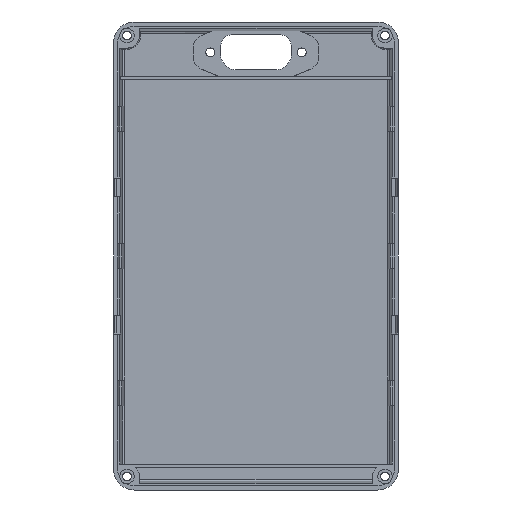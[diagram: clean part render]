
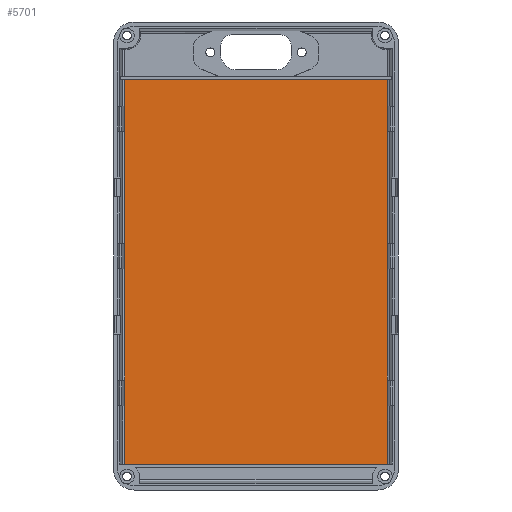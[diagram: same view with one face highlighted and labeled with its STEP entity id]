
A CAD part, top view. The second image highlights one B-rep face of the part: STEP entity #5701.
In plain terms, the highlighted planar face has unit normal (0, 0, 1).
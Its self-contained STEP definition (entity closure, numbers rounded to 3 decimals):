
#957=DIRECTION('',(0.,-1.,0.));
#958=VECTOR('',#957,185.);
#959=CARTESIAN_POINT('',(-63.216,85.,3.));
#960=LINE('',#959,#958);
#989=DIRECTION('',(1.,0.,0.));
#990=VECTOR('',#989,126.431);
#991=CARTESIAN_POINT('',(-63.216,85.,3.));
#992=LINE('',#991,#990);
#993=DIRECTION('',(1.,0.,0.));
#994=VECTOR('',#993,126.431);
#995=CARTESIAN_POINT('',(-63.216,-100.,3.));
#996=LINE('',#995,#994);
#1047=DIRECTION('',(0.,1.,0.));
#1048=VECTOR('',#1047,185.);
#1049=CARTESIAN_POINT('',(63.216,-100.,3.));
#1050=LINE('',#1049,#1048);
#3661=CARTESIAN_POINT('',(63.216,85.,3.));
#3662=VERTEX_POINT('',#3661);
#3663=CARTESIAN_POINT('',(-63.216,85.,3.));
#3664=VERTEX_POINT('',#3663);
#3766=CARTESIAN_POINT('',(-63.216,-100.,3.));
#3767=VERTEX_POINT('',#3766);
#3792=CARTESIAN_POINT('',(63.216,-100.,3.));
#3793=VERTEX_POINT('',#3792);
#5688=CARTESIAN_POINT('',(0.,0.,3.));
#5689=DIRECTION('',(0.,0.,1.));
#5690=DIRECTION('',(1.,0.,0.));
#5691=AXIS2_PLACEMENT_3D('',#5688,#5689,#5690);
#5692=PLANE('',#5691);
#5694=ORIENTED_EDGE('',*,*,#5693,.F.);
#5695=ORIENTED_EDGE('',*,*,#5656,.F.);
#5696=ORIENTED_EDGE('',*,*,#5069,.T.);
#5698=ORIENTED_EDGE('',*,*,#5697,.F.);
#5699=EDGE_LOOP('',(#5694,#5695,#5696,#5698));
#5700=FACE_OUTER_BOUND('',#5699,.F.);
#5701=ADVANCED_FACE('',(#5700),#5692,.T.);
#5069=EDGE_CURVE('',#3664,#3662,#992,.T.);
#5656=EDGE_CURVE('',#3664,#3767,#960,.T.);
#5693=EDGE_CURVE('',#3767,#3793,#996,.T.);
#5697=EDGE_CURVE('',#3793,#3662,#1050,.T.);
